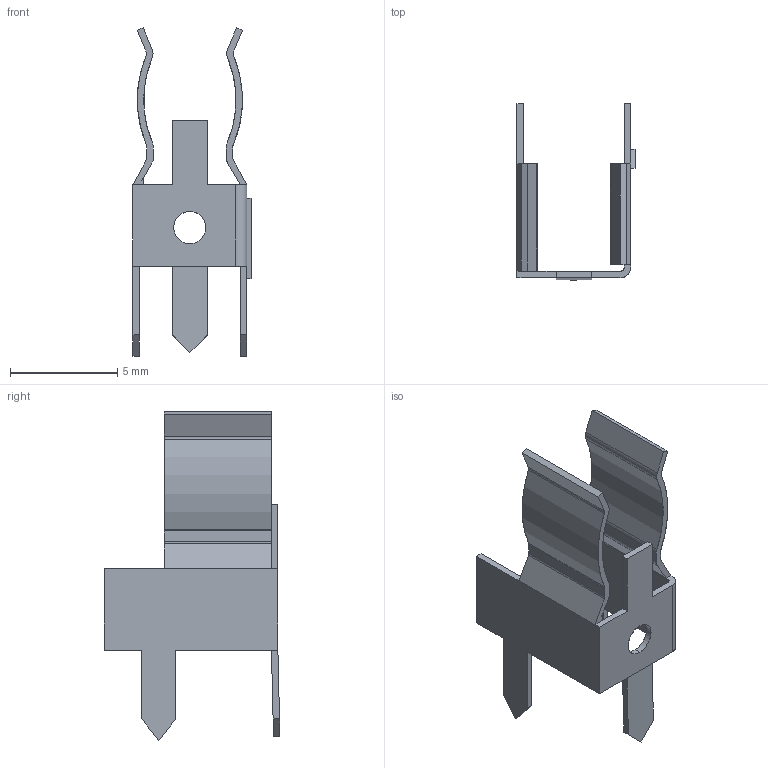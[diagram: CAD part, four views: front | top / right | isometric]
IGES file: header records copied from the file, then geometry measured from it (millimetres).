
Start section: SolidWorks IGES file using analytic representation for surfaces
Global section: file name: D:\X - Arquivos\PROEX\Empresas\P11 - METALTEX\01 - Produtos\IGES\7ª remessa\2ª etapa\PF-CI.IGS; native system: SolidWorks 2012; preprocessor: SolidWorks 2012; author: Usuario; date: 190912.134607; units: millimetre
Bounding box: 5.5 x 8.2 x 15.31 mm (x, y, z)
Surface area: 390.2 mm2 (no closed solid volume)
Topology: 0 solids, 0 shells, 170 faces, 990 edges, 990 vertices
Faces by surface type: bspline 147, revolution 23
